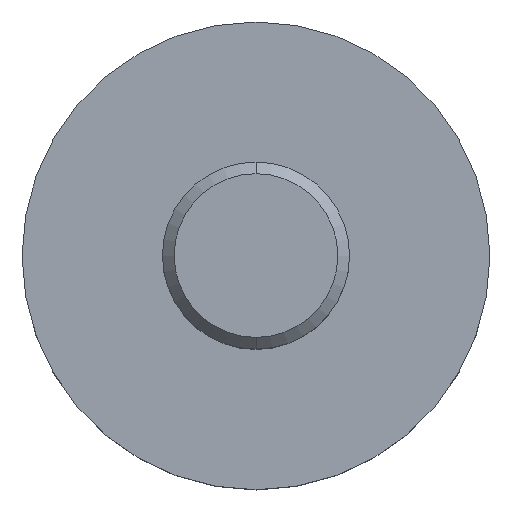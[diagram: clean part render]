
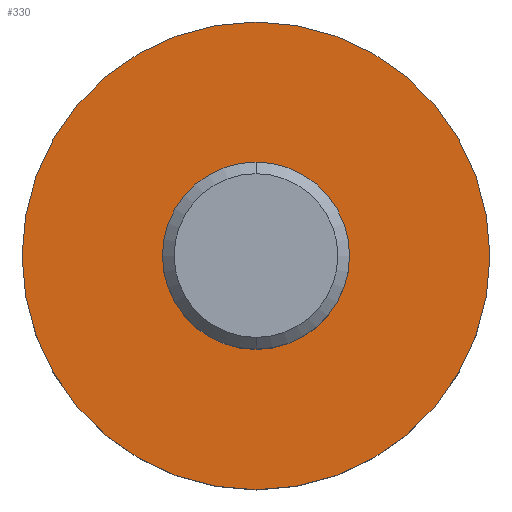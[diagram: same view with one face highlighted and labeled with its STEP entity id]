
A CAD part, top view. The second image highlights one B-rep face of the part: STEP entity #330.
In plain terms, the highlighted planar face has unit normal (0, 0, 1).
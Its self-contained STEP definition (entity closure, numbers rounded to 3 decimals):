
#1=CARTESIAN_POINT('',(0.,0.,-0.8));
#2=DIRECTION('',(0.,0.,1.));
#3=DIRECTION('',(0.,1.,0.));
#4=AXIS2_PLACEMENT_3D('',#1,#2,#3);
#6=CARTESIAN_POINT('',(0.,0.,-0.8));
#7=DIRECTION('',(0.,0.,-1.));
#8=DIRECTION('',(0.,1.,0.));
#9=AXIS2_PLACEMENT_3D('',#6,#7,#8);
#209=CARTESIAN_POINT('',(0.,0.,-0.8));
#210=DIRECTION('',(0.,0.,-1.));
#211=DIRECTION('',(0.,1.,0.));
#212=AXIS2_PLACEMENT_3D('',#209,#210,#211);
#218=CARTESIAN_POINT('',(0.,0.,-0.8));
#219=DIRECTION('',(0.,0.,1.));
#220=DIRECTION('',(0.,1.,0.));
#221=AXIS2_PLACEMENT_3D('',#218,#219,#220);
#251=CARTESIAN_POINT('',(0.,0.4,-0.8));
#253=VERTEX_POINT('',#251);
#280=CARTESIAN_POINT('',(0.,1.,-0.8));
#282=VERTEX_POINT('',#280);
#283=CARTESIAN_POINT('',(0.,-0.4,-0.8));
#285=VERTEX_POINT('',#283);
#310=CARTESIAN_POINT('',(0.,-1.,-0.8));
#312=VERTEX_POINT('',#310);
#313=CARTESIAN_POINT('',(0.,0.,-0.8));
#314=DIRECTION('',(0.,0.,1.));
#315=DIRECTION('',(0.,1.,0.));
#316=AXIS2_PLACEMENT_3D('',#313,#314,#315);
#317=PLANE('',#316);
#319=ORIENTED_EDGE('',*,*,#318,.F.);
#321=ORIENTED_EDGE('',*,*,#320,.T.);
#322=EDGE_LOOP('',(#319,#321));
#323=FACE_OUTER_BOUND('',#322,.F.);
#325=ORIENTED_EDGE('',*,*,#324,.F.);
#327=ORIENTED_EDGE('',*,*,#326,.T.);
#328=EDGE_LOOP('',(#325,#327));
#329=FACE_BOUND('',#328,.F.);
#330=ADVANCED_FACE('',(#323,#329),#317,.T.);
#5=CIRCLE('',#4,1.);
#10=CIRCLE('',#9,1.);
#213=CIRCLE('',#212,0.4);
#222=CIRCLE('',#221,0.4);
#318=EDGE_CURVE('',#282,#312,#5,.T.);
#320=EDGE_CURVE('',#282,#312,#10,.T.);
#324=EDGE_CURVE('',#253,#285,#213,.T.);
#326=EDGE_CURVE('',#253,#285,#222,.T.);
